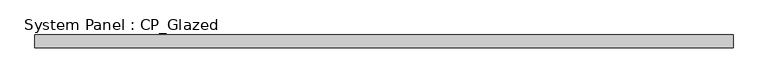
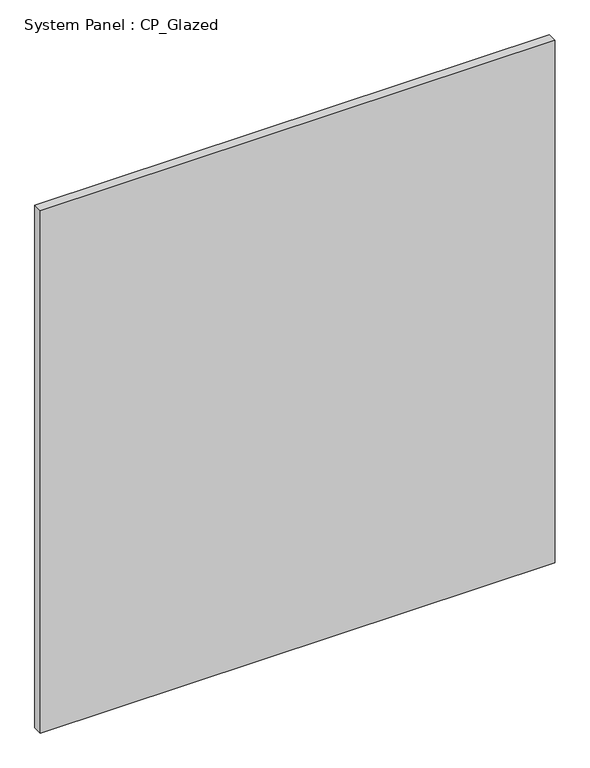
"""IFC4 building model written with IfcOpenShell, lengths in millimetres: plate geometry, System Panel : CP_Glazed."""

from ifc_helpers import new_model, si_unit, origin, origin_with_axes, place, context, project, spatial, polyline, outline, extrude, source, transform, mapped, element, save


def system_panel_cp_glazed_0892d0f8(model_context):
    return source(origin(), model_context, "Body", "SweptSolid", [
        extrude(outline(polyline([(690.1961538, 19.05), (-690.1961538, 19.05), (-690.1961538, 44.45), (690.1961538, 44.45), (690.1961538, 19.05)])), origin_with_axes(), (0.0, 0.0, 1.0), 1479.55),
    ])


if __name__ == "__main__":
    model = new_model("IFC4")
    model_context = context("Model", 3, world=origin())
    ifc_project = project(units=[si_unit("LENGTHUNIT", "METRE", prefix="MILLI")], contexts=[model_context])
    site = spatial("IfcSite", under=ifc_project)
    building = spatial("IfcBuilding", under=site)
    placement = place(None, origin())
    system_panel_cp_glazed_shape = system_panel_cp_glazed_0892d0f8(model_context)
    element("IfcPlate", 1, ObjectType="System Panel : CP_Glazed", at=placement, inside=building, context=model_context, shape_type="MappedRepresentation", body=[
        mapped(system_panel_cp_glazed_shape, transform((0.0, 0.0, 0.0), x_axis=(1.0, 0.0, 0.0), y_axis=(0.0, 1.0, 0.0), z_axis=(0.0, 0.0, 1.0))),
    ])
    save(model, "model.ifc")
